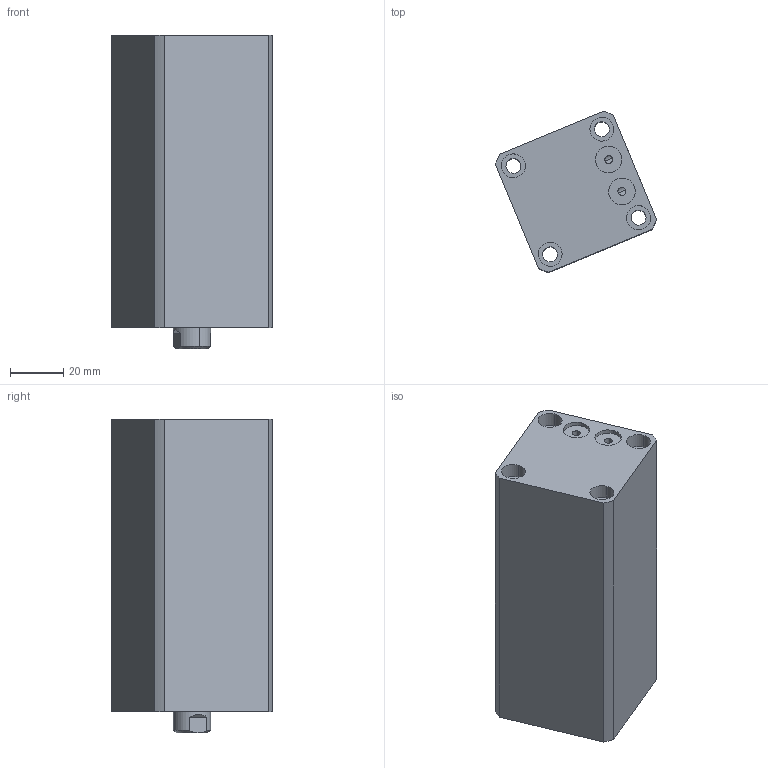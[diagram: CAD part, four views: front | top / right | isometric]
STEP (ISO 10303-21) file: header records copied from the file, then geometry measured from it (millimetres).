
FILE_DESCRIPTION (( 'STEP AP214' ), '1' );
FILE_NAME ('chtb-sdmb25x65n_asm.STEP', '2018-05-24T01:39:39', ( 'Windows' ), ( 'Microsoft' ), 'SwSTEP 2.0', 'SolidWorks 2015', '' );
FILE_SCHEMA (( 'AUTOMOTIVE_DESIGN' ));
Length unit declared in the file: millimetre
Products named in the file (4): CHTB-SDMB25X65NHSG; CHTB-SDMB25X65NBT; CHTB-25QG; chtb-sdmb25x65n_asm
Assembly tree (3 placements, depth 2):
  chtb-sdmb25x65n_asm
    CHTB-25QG
    CHTB-SDMB25X65NBT
    CHTB-SDMB25X65NHSG
Bounding box: 60.55 x 60.55 x 118 mm (x, y, z)
Volume: 214793 mm3; surface area: 55008.2 mm2
Topology: 3 solids, 3 shells, 142 faces, 379 edges, 257 vertices
Faces by surface type: cylinder 89, plane 34, bspline 10, cone 9
Entity records: 8024 total; most frequent: CARTESIAN_POINT 4397, ORIENTED_EDGE 746, DIRECTION 661, EDGE_CURVE 373, AXIS2_PLACEMENT_3D 272, VERTEX_POINT 257, EDGE_LOOP 180, FACE_OUTER_BOUND 142
